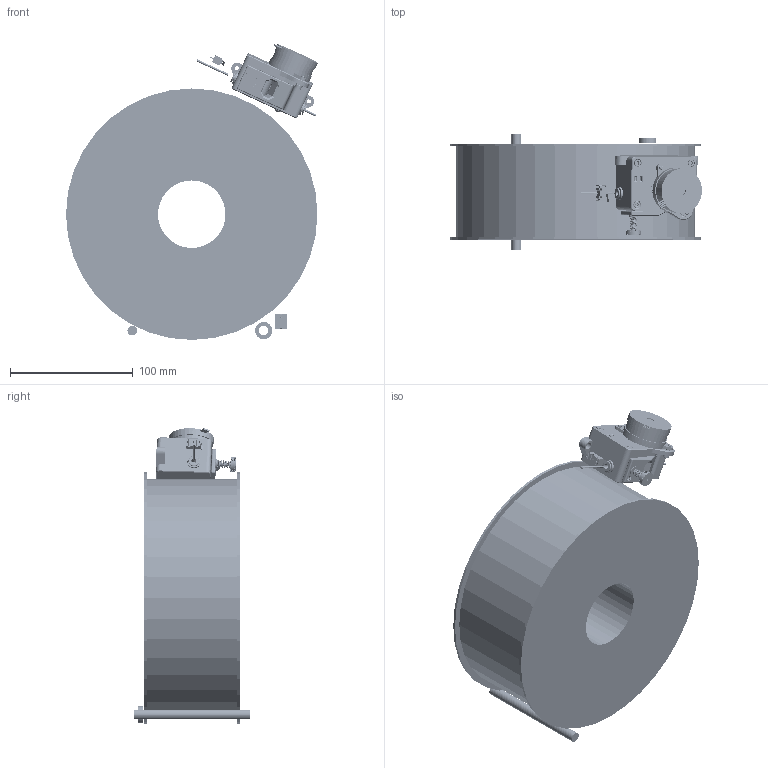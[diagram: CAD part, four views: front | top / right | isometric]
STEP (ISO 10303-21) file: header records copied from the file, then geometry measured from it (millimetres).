
FILE_DESCRIPTION(('Poly-Turtle cradle drive layout, box coordinates: X fwd from rear factory axle, Z up from floor, mm'),'2;1');
FILE_NAME('Open CASCADE Shape Model','2026-11-25T16:00:00',('Author'),( 'Open CASCADE'),'Open CASCADE STEP processor 7.8','Open CASCADE 7.8' ,'Unknown');
FILE_SCHEMA(('AUTOMOTIVE_DESIGN { 1 0 10303 214 1 1 1 1 }'));
Length unit declared in the file: millimetre
Products named in the file (10): Poly_Turtle_cradle_drive_layout; Cradle_drive_donor_parts; Bearing-0; N20-0; Rear_roller_proxy; Spool_205x78; Smol_feeder_with_LOAD; PREP_position; Inlet_path; Outlet_path
Assembly tree (9 placements, depth 3):
  Poly_Turtle_cradle_drive_layout
    Cradle_drive_donor_parts
      Bearing-0
      N20-0
    Rear_roller_proxy
    Spool_205x78
    Smol_feeder_with_LOAD
    PREP_position
    Inlet_path
    Outlet_path
Bounding box: 205.42 x 95 x 241.19 mm (x, y, z)
Volume: 2251511.4 mm3; surface area: 177821.9 mm2
Topology: 71 solids, 75 shells, 6308 faces, 17450 edges, 11461 vertices
Faces by surface type: cylinder 3017, bspline 1654, plane 1314, cone 206, torus 88, sphere 29
Full cylindrical faces by diameter (mm): 0.9 x15, 1 x10, 1.2 x1, 1.4 x6, 1.5 x10, 1.6 x2, 1.7 x1, 1.75 x2, 2 x1, 2.35 x3, 2.356 x46, 2.5 x8, 2.529 x8, 2.8 x1, 2.9 x6, 2.927 x47, 3 x20, 3.086 x8, 3.2 x1, 3.35 x10, 3.5 x4, 3.6 x1, 4 x6, 4.15 x1, 4.2 x6, 4.25 x6, 4.56 x1, 4.6 x6, 4.65 x5, 5 x7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
Entity records: 829663 total; most frequent: CARTESIAN_POINT 508933, DIRECTION 52659, ORIENTED_EDGE 34868, PCURVE 34868, DEFINITIONAL_REPRESENTATION 34868, LINE 25082, VECTOR 25082, EDGE_CURVE 17434
